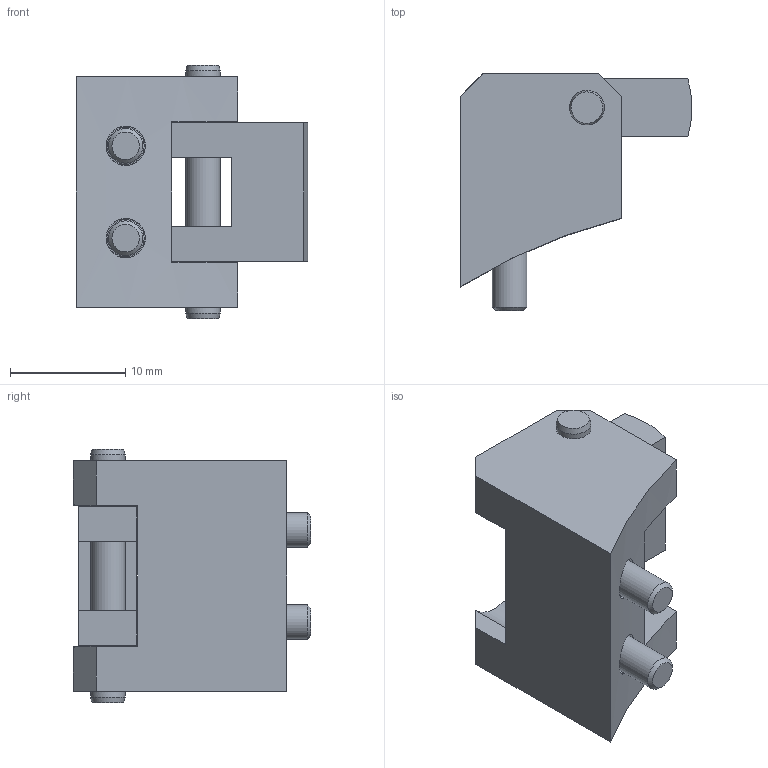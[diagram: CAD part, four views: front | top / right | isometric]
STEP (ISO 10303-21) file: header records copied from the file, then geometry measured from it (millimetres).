
FILE_DESCRIPTION(/* description */ (''),/* implementation_level */ '2;1');
FILE_NAME(/* name */ '\\dc01\daten\CAD\Standard\Daten\3D-Datenbank\SWS\4 - 3D-CAD-Daten SWS 050-160\SWS100\step-Daten\EG-SWS100-VS2.stp',/* time_stamp */ '2016-11-11T11:29:18+01:00',/* author */ ('ysplieth'),/* organization */ (''),/* preprocessor_version */ 'ST-DEVELOPER v15.2',/* originating_system */ 'Autodesk Inventor 2014',/* authorisation */ '');
FILE_SCHEMA (('AUTOMOTIVE_DESIGN { 1 0 10303 214 3 1 1 }'));
Length unit declared in the file: millimetre
Products named in the file (1): Bauteil1
Bounding box: 20.1 x 20.6 x 22 mm (x, y, z)
Volume: 3243 mm3; surface area: 2789.1 mm2
Topology: 1 solids, 1 shells, 73 faces, 175 edges, 114 vertices
Faces by surface type: plane 48, cylinder 15, cone 6, torus 4
Full cylindrical faces by diameter (mm): 3 x7, 3.4 x2, 5.5 x2, 6.5 x2
Entity records: 2107 total; most frequent: CARTESIAN_POINT 418, DIRECTION 322, ORIENTED_EDGE 292, EDGE_CURVE 146, AXIS2_PLACEMENT_3D 116, EDGE_LOOP 110, VERTEX_POINT 108, LINE 90
